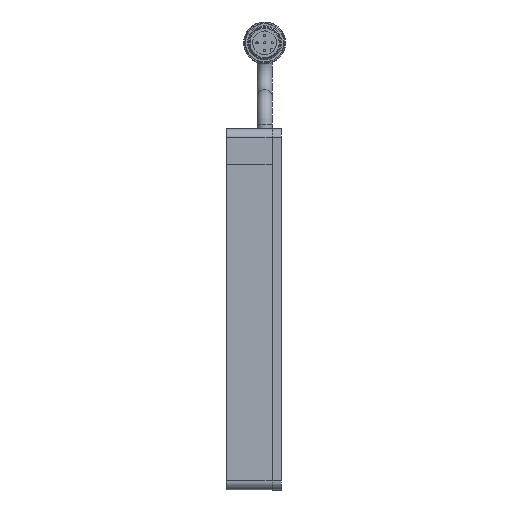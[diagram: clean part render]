
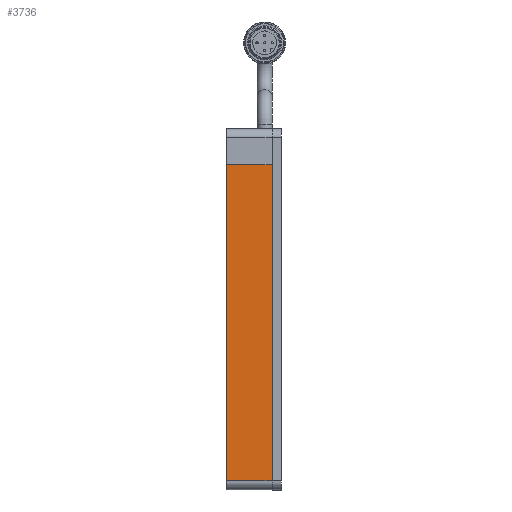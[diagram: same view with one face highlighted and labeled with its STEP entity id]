
A CAD part, left-side view. The second image highlights one B-rep face of the part: STEP entity #3736.
In plain terms, the highlighted planar face has unit normal (-1, 0, 0) as drawn and (0, 0, -1) by its records, which use the part's own axes.
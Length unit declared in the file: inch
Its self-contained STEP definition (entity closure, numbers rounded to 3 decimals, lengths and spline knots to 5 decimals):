
#346 = ORIENTED_EDGE ( 'NONE', *, *, #5365, .T. ) ;
#429 = AXIS2_PLACEMENT_3D ( 'NONE', #14239, #4344, #13011 ) ;
#1579 = CARTESIAN_POINT ( 'NONE',  ( -2.5, 0.3125, -0.25 ) ) ;
#2079 = CARTESIAN_POINT ( 'NONE',  ( -2., 0.3125, -0.25 ) ) ;
#2115 = ORIENTED_EDGE ( 'NONE', *, *, #9690, .T. ) ;
#2681 = VERTEX_POINT ( 'NONE', #2079 ) ;
#3541 = CARTESIAN_POINT ( 'NONE',  ( 2.375, 0.3125, -0.25 ) ) ;
#3597 = VERTEX_POINT ( 'NONE', #8503 ) ;
#3736 = ADVANCED_FACE ( 'NONE', ( #5352 ), #11060, .F. ) ;
#3765 = VECTOR ( 'NONE', #13412, 39.37008 ) ;
#3825 = DIRECTION ( 'NONE',  ( -1., 0., 0. ) ) ;
#4291 = LINE ( 'NONE', #13032, #7234 ) ;
#4344 = DIRECTION ( 'NONE',  ( 0., 0., 1. ) ) ;
#4403 = LINE ( 'NONE', #9006, #3765 ) ;
#4963 = VECTOR ( 'NONE', #3825, 39.37008 ) ;
#5204 = VERTEX_POINT ( 'NONE', #11611 ) ;
#5352 = FACE_OUTER_BOUND ( 'NONE', #5430, .T. ) ;
#5365 = EDGE_CURVE ( 'NONE', #3597, #2681, #4291, .T. ) ;
#5430 = EDGE_LOOP ( 'NONE', ( #12103, #2115, #12269, #346 ) ) ;
#6205 = DIRECTION ( 'NONE',  ( -1., 0., 0. ) ) ;
#7234 = VECTOR ( 'NONE', #7677, 39.37008 ) ;
#7287 = EDGE_CURVE ( 'NONE', #7977, #2681, #8076, .T. ) ;
#7677 = DIRECTION ( 'NONE',  ( 0., 1., 0. ) ) ;
#7977 = VERTEX_POINT ( 'NONE', #3541 ) ;
#8076 = LINE ( 'NONE', #1579, #4963 ) ;
#8503 = CARTESIAN_POINT ( 'NONE',  ( -2., -0.3125, -0.25 ) ) ;
#9006 = CARTESIAN_POINT ( 'NONE',  ( 2.375, 0.3125, -0.25 ) ) ;
#9690 = EDGE_CURVE ( 'NONE', #7977, #5204, #4403, .T. ) ;
#11004 = VECTOR ( 'NONE', #6205, 39.37008 ) ;
#11060 = PLANE ( 'NONE',  #429 ) ;
#11611 = CARTESIAN_POINT ( 'NONE',  ( 2.375, -0.3125, -0.25 ) ) ;
#12025 = LINE ( 'NONE', #14113, #11004 ) ;
#12103 = ORIENTED_EDGE ( 'NONE', *, *, #7287, .F. ) ;
#12269 = ORIENTED_EDGE ( 'NONE', *, *, #14023, .T. ) ;
#13011 = DIRECTION ( 'NONE',  ( 1., 0., 0. ) ) ;
#13032 = CARTESIAN_POINT ( 'NONE',  ( -2., -0.3125, -0.25 ) ) ;
#13412 = DIRECTION ( 'NONE',  ( 0., -1., 0. ) ) ;
#14023 = EDGE_CURVE ( 'NONE', #5204, #3597, #12025, .T. ) ;
#14113 = CARTESIAN_POINT ( 'NONE',  ( -2.5, -0.3125, -0.25 ) ) ;
#14239 = CARTESIAN_POINT ( 'NONE',  ( -2.5, 0.3125, -0.25 ) ) ;
